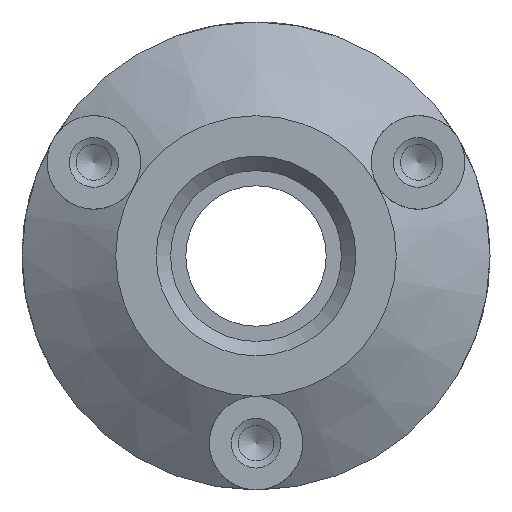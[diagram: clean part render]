
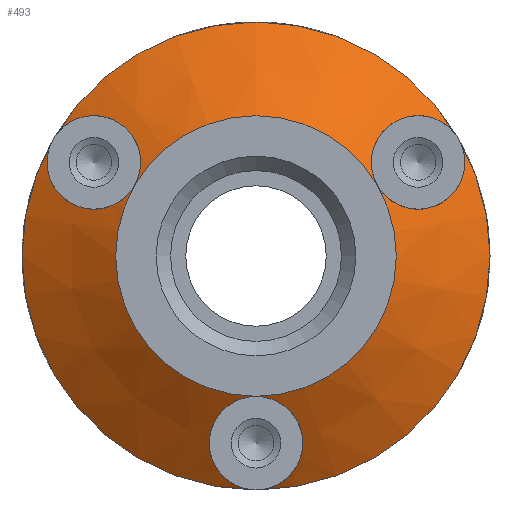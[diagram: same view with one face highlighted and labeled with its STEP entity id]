
A CAD part, front view. The second image highlights one B-rep face of the part: STEP entity #493.
In plain terms, the highlighted conical face has half-angle 57 degrees and reference radius 25 mm.
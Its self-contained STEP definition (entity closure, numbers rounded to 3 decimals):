
#92=CONICAL_SURFACE('',#1375,25.,57.);
#289=FACE_BOUND('',#715,.T.);
#290=FACE_BOUND('',#716,.T.);
#391=CIRCLE('',#1359,25.);
#392=CIRCLE('',#1360,25.);
#393=CIRCLE('',#1361,25.);
#395=CIRCLE('',#1364,14.991);
#493=ADVANCED_FACE('',(#289,#290),#92,.T.);
#715=EDGE_LOOP('',(#939));
#716=EDGE_LOOP('',(#940,#941,#942,#943,#944,#945));
#939=ORIENTED_EDGE('',*,*,#1180,.F.);
#940=ORIENTED_EDGE('',*,*,#1178,.F.);
#941=ORIENTED_EDGE('',*,*,#1188,.F.);
#942=ORIENTED_EDGE('',*,*,#1177,.F.);
#943=ORIENTED_EDGE('',*,*,#1189,.F.);
#944=ORIENTED_EDGE('',*,*,#1176,.F.);
#945=ORIENTED_EDGE('',*,*,#1190,.F.);
#1066=VERTEX_POINT('',#2139);
#1067=VERTEX_POINT('',#2140);
#1068=VERTEX_POINT('',#2142);
#1070=VERTEX_POINT('',#2148);
#1176=EDGE_CURVE('',#1066,#1067,#391,.T.);
#1177=EDGE_CURVE('',#1067,#1068,#392,.T.);
#1178=EDGE_CURVE('',#1068,#1066,#393,.T.);
#1180=EDGE_CURVE('',#1070,#1070,#395,.T.);
#1188=EDGE_CURVE('',#1068,#1068,#1210,.T.);
#1189=EDGE_CURVE('',#1067,#1067,#1211,.T.);
#1190=EDGE_CURVE('',#1066,#1066,#1212,.T.);
#1210=B_SPLINE_CURVE_WITH_KNOTS('',3,(#2166,#2167,#2168,#2169,#2170,#2171,
#2172,#2173,#2174,#2175,#2176,#2177,#2178,#2179,#2180,#2181,#2182,#2183),
 .UNSPECIFIED.,.T.,.F.,(2,2,2,2,2,2,2,2,2,2,2),(-0.125,0.,0.125,0.25,0.375,
0.5,0.625,0.75,0.875,1.,1.125),.UNSPECIFIED.);
#1211=B_SPLINE_CURVE_WITH_KNOTS('',3,(#2184,#2185,#2186,#2187,#2188,#2189,
#2190,#2191,#2192,#2193,#2194,#2195,#2196,#2197,#2198,#2199,#2200,#2201),
 .UNSPECIFIED.,.T.,.F.,(2,2,2,2,2,2,2,2,2,2,2),(-0.125,0.,0.125,0.25,0.375,
0.5,0.625,0.75,0.875,1.,1.125),.UNSPECIFIED.);
#1212=B_SPLINE_CURVE_WITH_KNOTS('',3,(#2202,#2203,#2204,#2205,#2206,#2207,
#2208,#2209,#2210,#2211,#2212,#2213,#2214,#2215,#2216,#2217,#2218,#2219),
 .UNSPECIFIED.,.T.,.F.,(2,2,2,2,2,2,2,2,2,2,2),(-0.125,0.,0.125,0.25,0.375,
0.5,0.625,0.75,0.875,1.,1.125),.UNSPECIFIED.);
#1359=AXIS2_PLACEMENT_3D('',#2138,#1710,#1711);
#1360=AXIS2_PLACEMENT_3D('',#2141,#1712,#1713);
#1361=AXIS2_PLACEMENT_3D('',#2143,#1714,#1715);
#1364=AXIS2_PLACEMENT_3D('',#2147,#1720,#1721);
#1375=AXIS2_PLACEMENT_3D('',#2220,#1742,#1743);
#1710=DIRECTION('',(0.,1.,0.));
#1711=DIRECTION('',(0.866,0.,-0.5));
#1712=DIRECTION('',(0.,1.,0.));
#1713=DIRECTION('',(0.866,0.,-0.5));
#1714=DIRECTION('',(0.,1.,0.));
#1715=DIRECTION('',(0.866,0.,-0.5));
#1720=DIRECTION('',(0.,-1.,0.));
#1721=DIRECTION('',(0.866,0.,-0.5));
#1742=DIRECTION('',(0.,1.,0.));
#1743=DIRECTION('',(-0.866,0.,0.5));
#2138=CARTESIAN_POINT('',(0.,-41.,0.));
#2139=CARTESIAN_POINT('',(-21.651,-41.,12.5));
#2140=CARTESIAN_POINT('',(21.651,-41.,12.5));
#2141=CARTESIAN_POINT('',(0.,-41.,0.));
#2142=CARTESIAN_POINT('',(0.,-41.,-25.));
#2143=CARTESIAN_POINT('',(0.,-41.,0.));
#2147=CARTESIAN_POINT('',(0.,-47.5,0.));
#2148=CARTESIAN_POINT('',(12.982,-47.5,-7.495));
#2166=CARTESIAN_POINT('',(-1.441,-41.,-25.));
#2167=CARTESIAN_POINT('',(1.441,-41.,-25.));
#2168=CARTESIAN_POINT('',(2.839,-41.345,-24.325));
#2169=CARTESIAN_POINT('',(4.611,-42.433,-22.346));
#2170=CARTESIAN_POINT('',(5.032,-43.161,-21.082));
#2171=CARTESIAN_POINT('',(4.964,-44.71,-18.639));
#2172=CARTESIAN_POINT('',(4.499,-45.52,-17.482));
#2173=CARTESIAN_POINT('',(2.775,-46.918,-15.656));
#2174=CARTESIAN_POINT('',(1.429,-47.495,-14.999));
#2175=CARTESIAN_POINT('',(-1.434,-47.493,-15.001));
#2176=CARTESIAN_POINT('',(-2.788,-46.911,-15.665));
#2177=CARTESIAN_POINT('',(-4.499,-45.517,-17.486));
#2178=CARTESIAN_POINT('',(-4.969,-44.688,-18.673));
#2179=CARTESIAN_POINT('',(-5.028,-43.159,-21.086));
#2180=CARTESIAN_POINT('',(-4.6,-42.424,-22.363));
#2181=CARTESIAN_POINT('',(-2.834,-41.345,-24.325));
#2182=CARTESIAN_POINT('',(-1.441,-41.,-25.));
#2183=CARTESIAN_POINT('',(1.441,-41.,-25.));
#2184=CARTESIAN_POINT('',(22.377,-41.,11.241));
#2185=CARTESIAN_POINT('',(20.924,-41.,13.759));
#2186=CARTESIAN_POINT('',(19.655,-41.342,14.619));
#2187=CARTESIAN_POINT('',(17.043,-42.434,15.168));
#2188=CARTESIAN_POINT('',(15.733,-43.166,14.895));
#2189=CARTESIAN_POINT('',(13.662,-44.709,13.618));
#2190=CARTESIAN_POINT('',(12.889,-45.519,12.641));
#2191=CARTESIAN_POINT('',(12.167,-46.929,10.21));
#2192=CARTESIAN_POINT('',(12.276,-47.498,8.729));
#2193=CARTESIAN_POINT('',(13.719,-47.49,6.246));
#2194=CARTESIAN_POINT('',(14.971,-46.906,5.412));
#2195=CARTESIAN_POINT('',(17.41,-45.506,4.846));
#2196=CARTESIAN_POINT('',(18.665,-44.682,5.035));
#2197=CARTESIAN_POINT('',(20.786,-43.15,6.198));
#2198=CARTESIAN_POINT('',(21.669,-42.421,7.202));
#2199=CARTESIAN_POINT('',(22.483,-41.345,9.71));
#2200=CARTESIAN_POINT('',(22.377,-41.,11.241));
#2201=CARTESIAN_POINT('',(20.924,-41.,13.759));
#2202=CARTESIAN_POINT('',(-20.926,-41.,13.756));
#2203=CARTESIAN_POINT('',(-22.376,-41.,11.244));
#2204=CARTESIAN_POINT('',(-22.487,-41.344,9.707));
#2205=CARTESIAN_POINT('',(-21.655,-42.436,7.174));
#2206=CARTESIAN_POINT('',(-20.765,-43.167,6.176));
#2207=CARTESIAN_POINT('',(-18.615,-44.716,5.019));
#2208=CARTESIAN_POINT('',(-17.374,-45.53,4.843));
#2209=CARTESIAN_POINT('',(-14.917,-46.933,5.437));
#2210=CARTESIAN_POINT('',(-13.693,-47.499,6.272));
#2211=CARTESIAN_POINT('',(-12.268,-47.489,8.762));
#2212=CARTESIAN_POINT('',(-12.173,-46.906,10.257));
#2213=CARTESIAN_POINT('',(-12.9,-45.51,12.649));
#2214=CARTESIAN_POINT('',(-13.689,-44.685,13.644));
#2215=CARTESIAN_POINT('',(-15.755,-43.154,14.9));
#2216=CARTESIAN_POINT('',(-17.07,-42.422,15.165));
#2217=CARTESIAN_POINT('',(-19.649,-41.345,14.617));
#2218=CARTESIAN_POINT('',(-20.926,-41.,13.756));
#2219=CARTESIAN_POINT('',(-22.376,-41.,11.244));
#2220=CARTESIAN_POINT('',(0.,-41.,0.));
